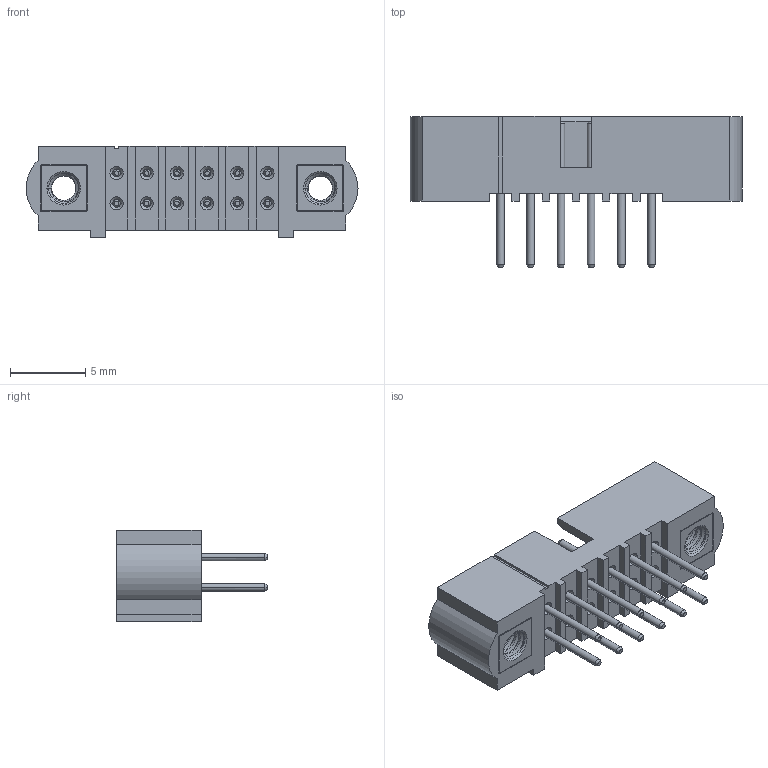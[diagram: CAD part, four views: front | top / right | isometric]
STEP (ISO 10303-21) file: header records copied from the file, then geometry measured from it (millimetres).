
FILE_DESCRIPTION((''),'2;1');
FILE_NAME('M80-5012022_ASM','2012-03-23T',('wbourne'),(''),'PRO/ENGINEER BY PARAMETRIC TECHNOLOGY CORPORATION, 2010280','PRO/ENGINEER BY PARAMETRIC TECHNOLOGY CORPORATION, 2010280','');
FILE_SCHEMA(('CONFIG_CONTROL_DESIGN','SHAPE_APPEARANCE_LAYERS_GROUPS'));
Length unit declared in the file: millimetre
Products named in the file (4): M80-2702098; M80-1960049; M80-210; M80-5012022_ASM
Assembly tree (15 placements, depth 2):
  M80-5012022_ASM
    M80-2702098
    M80-1960049  x12
    M80-210  x2
Bounding box: 22 x 10 x 6.05 mm (x, y, z)
Volume: 421.8 mm3; surface area: 1205.3 mm2
Topology: 15 solids, 17 shells, 489 faces, 1189 edges, 762 vertices
Faces by surface type: plane 211, cylinder 118, cone 88, bspline 72
Entity records: 11730 total; most frequent: CARTESIAN_POINT 4659, ORIENTED_EDGE 1098, DIRECTION 1065, PRESENTATION_STYLE_ASSIGNMENT 555, STYLED_ITEM 555, CURVE_STYLE 551, EDGE_CURVE 551, AXIS2_PLACEMENT_3D 373
